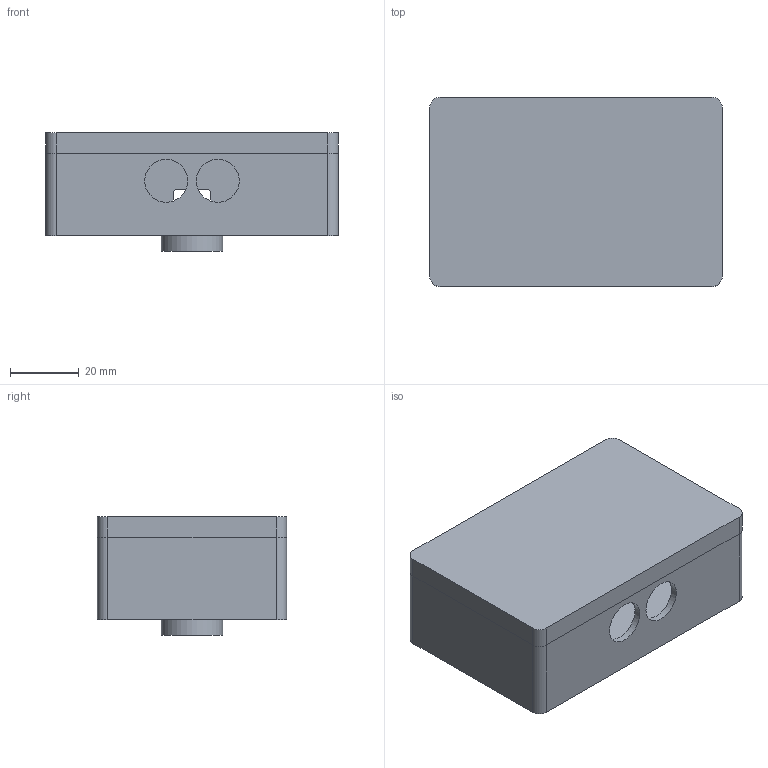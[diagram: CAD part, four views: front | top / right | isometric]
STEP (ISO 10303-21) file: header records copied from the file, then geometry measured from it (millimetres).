
FILE_DESCRIPTION(/* description */ (''),/* implementation_level */ '2;1');
FILE_NAME(/* name */ 'camera_enclosure.step',/* time_stamp */ '2026-10-16T16:53:26+02:00',/* author */ (''),/* organization */ (''),/* preprocessor_version */ 'ST-DEVELOPER v20.2',/* originating_system */ 'Autodesk Translation Framework v15.15.0.0',/* authorisation */ '');
FILE_SCHEMA (('AUTOMOTIVE_DESIGN { 1 0 10303 214 3 1 1 }'));
Length unit declared in the file: millimetre
Products named in the file (1): 2026-10-16-16-51-44-539
Bounding box: 85 x 55 x 34.5 mm (x, y, z)
Volume: 33960.1 mm3; surface area: 36446.3 mm2
Topology: 3 solids, 3 shells, 131 faces, 312 edges, 208 vertices
Faces by surface type: plane 91, cylinder 40
Full cylindrical faces by diameter (mm): 2.2 x4, 5 x4, 8 x1, 12.5 x2, 18 x1
Entity records: 3833 total; most frequent: DIRECTION 656, CARTESIAN_POINT 652, ORIENTED_EDGE 624, EDGE_CURVE 312, LINE 232, VECTOR 232, AXIS2_PLACEMENT_3D 212, VERTEX_POINT 208
